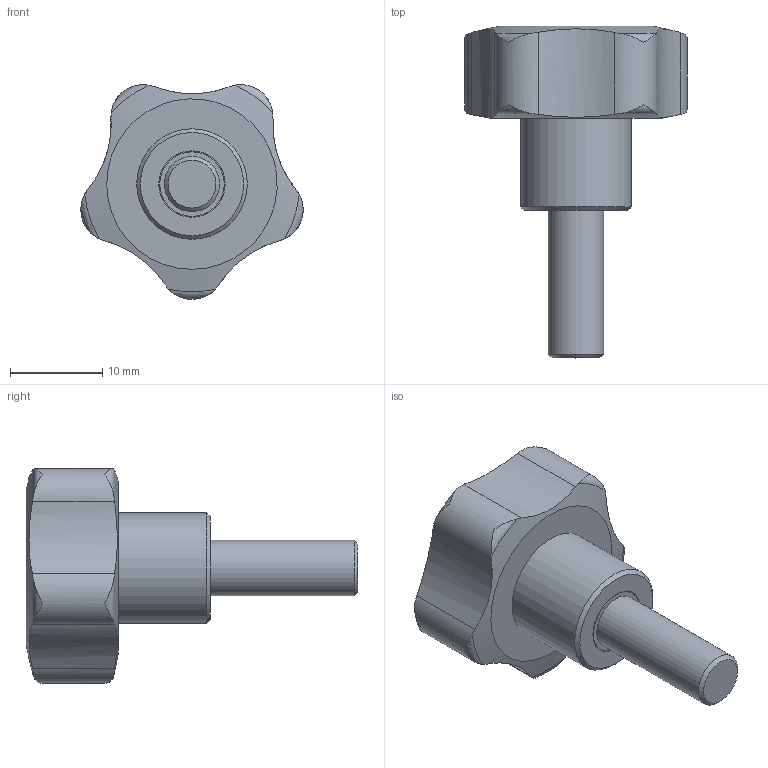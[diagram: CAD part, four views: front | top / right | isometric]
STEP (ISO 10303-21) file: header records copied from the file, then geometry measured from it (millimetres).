
FILE_DESCRIPTION( ( 'STEP AP203' ), '1' );
FILE_NAME( 'C:/Temp/Ganter_Step_05_03_2020/data/2_2/gn_5337_4/gn_5337_4_s/Star knob GN 5337.4-25-M6-16.stp', '2020-03-05T12:09:39', ( 'License CC BY-ND 4.0' ), ( 'CADENAS' ), ' ', 'PARTsolutions', ' ' );
FILE_SCHEMA( ( 'CONFIG_CONTROL_DESIGN' ) );
Length unit declared in the file: millimetre
Products named in the file (1): _Star knob GN 5337.4-25-M6-16
Bounding box: 24.11 x 36 x 23.28 mm (x, y, z)
Volume: 5267.1 mm3; surface area: 2125.5 mm2
Topology: 1 solids, 1 shells, 34 faces, 95 edges, 66 vertices
Faces by surface type: cylinder 14, torus 10, plane 5, cone 3, bspline 1, sphere 1
Full cylindrical faces by diameter (mm): 6 x1, 7 x1, 7.2 x1, 12 x1
Entity records: 1417 total; most frequent: CARTESIAN_POINT 629, ORIENTED_EDGE 164, DIRECTION 122, EDGE_CURVE 82, VERTEX_POINT 63, AXIS2_PLACEMENT_3D 56, B_SPLINE_CURVE_WITH_KNOTS 50, EDGE_LOOP 46
